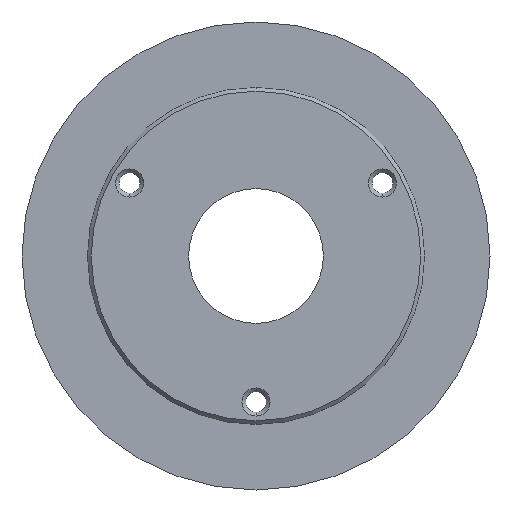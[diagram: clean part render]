
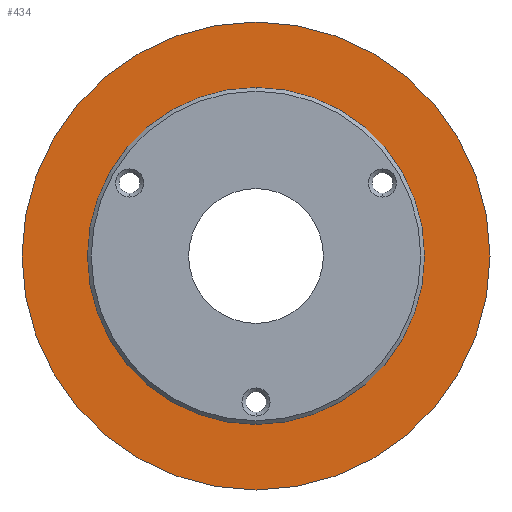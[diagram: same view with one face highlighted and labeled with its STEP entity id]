
A CAD part, front view. The second image highlights one B-rep face of the part: STEP entity #434.
In plain terms, the highlighted planar face has unit normal (0, -1, 0).
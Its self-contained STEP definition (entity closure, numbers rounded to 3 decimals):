
#39 = EDGE_LOOP ( 'NONE', ( #1173, #237 ) ) ;
#48 = AXIS2_PLACEMENT_3D ( 'NONE', #322, #505, #1095 ) ;
#59 = CARTESIAN_POINT ( 'NONE',  ( 0., 9., 0. ) ) ;
#138 = CARTESIAN_POINT ( 'NONE',  ( -45., 9., 0. ) ) ;
#157 = AXIS2_PLACEMENT_3D ( 'NONE', #138, #685, #872 ) ;
#180 = CIRCLE ( 'NONE', #1200, 62.5 ) ;
#195 = CARTESIAN_POINT ( 'NONE',  ( 0., 9., -62.5 ) ) ;
#197 = CIRCLE ( 'NONE', #48, 45. ) ;
#216 = ORIENTED_EDGE ( 'NONE', *, *, #947, .F. ) ;
#218 = EDGE_CURVE ( 'NONE', #767, #994, #668, .T. ) ;
#222 = CARTESIAN_POINT ( 'NONE',  ( 0., 9., 45. ) ) ;
#236 = EDGE_LOOP ( 'NONE', ( #339, #216 ) ) ;
#237 = ORIENTED_EDGE ( 'NONE', *, *, #891, .T. ) ;
#322 = CARTESIAN_POINT ( 'NONE',  ( 0., 9., 0. ) ) ;
#339 = ORIENTED_EDGE ( 'NONE', *, *, #882, .F. ) ;
#357 = AXIS2_PLACEMENT_3D ( 'NONE', #621, #699, #702 ) ;
#406 = FACE_OUTER_BOUND ( 'NONE', #39, .T. ) ;
#434 = ADVANCED_FACE ( 'NONE', ( #924, #406 ), #812, .F. ) ;
#505 = DIRECTION ( 'NONE',  ( 0., -1., 0. ) ) ;
#509 = CARTESIAN_POINT ( 'NONE',  ( 0., 9., -45. ) ) ;
#621 = CARTESIAN_POINT ( 'NONE',  ( 0., 9., 0. ) ) ;
#668 = CIRCLE ( 'NONE', #841, 62.5 ) ;
#685 = DIRECTION ( 'NONE',  ( 0., 1., 0. ) ) ;
#699 = DIRECTION ( 'NONE',  ( 0., -1., 0. ) ) ;
#702 = DIRECTION ( 'NONE',  ( 0., 0., -1. ) ) ;
#767 = VERTEX_POINT ( 'NONE', #195 ) ;
#809 = CARTESIAN_POINT ( 'NONE',  ( 0., 9., 0. ) ) ;
#812 = PLANE ( 'NONE',  #157 ) ;
#814 = DIRECTION ( 'NONE',  ( 0., -1., 0. ) ) ;
#820 = DIRECTION ( 'NONE',  ( 0., 0., -1. ) ) ;
#841 = AXIS2_PLACEMENT_3D ( 'NONE', #809, #814, #820 ) ;
#872 = DIRECTION ( 'NONE',  ( 0., 0., 1. ) ) ;
#882 = EDGE_CURVE ( 'NONE', #1001, #943, #197, .T. ) ;
#891 = EDGE_CURVE ( 'NONE', #994, #767, #180, .T. ) ;
#924 = FACE_BOUND ( 'NONE', #236, .T. ) ;
#939 = CIRCLE ( 'NONE', #357, 45. ) ;
#943 = VERTEX_POINT ( 'NONE', #222 ) ;
#947 = EDGE_CURVE ( 'NONE', #943, #1001, #939, .T. ) ;
#994 = VERTEX_POINT ( 'NONE', #1087 ) ;
#1001 = VERTEX_POINT ( 'NONE', #509 ) ;
#1003 = DIRECTION ( 'NONE',  ( 0., 0., -1. ) ) ;
#1087 = CARTESIAN_POINT ( 'NONE',  ( 0., 9., 62.5 ) ) ;
#1095 = DIRECTION ( 'NONE',  ( 0., 0., -1. ) ) ;
#1173 = ORIENTED_EDGE ( 'NONE', *, *, #218, .T. ) ;
#1176 = DIRECTION ( 'NONE',  ( 0., -1., 0. ) ) ;
#1200 = AXIS2_PLACEMENT_3D ( 'NONE', #59, #1176, #1003 ) ;
